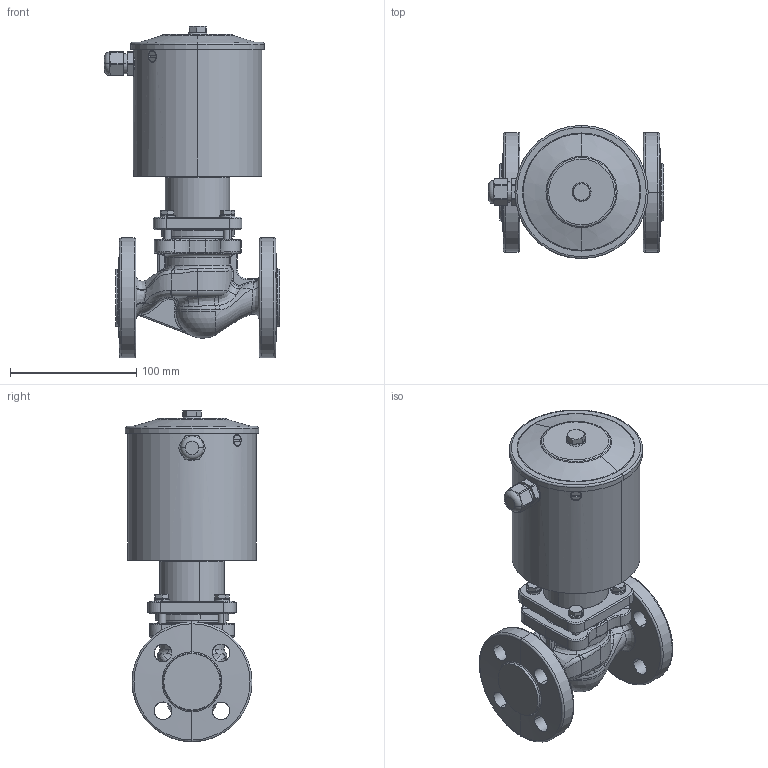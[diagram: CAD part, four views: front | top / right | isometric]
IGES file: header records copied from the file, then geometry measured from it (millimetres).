
Global section: file name: No Iges File Name specified; native system: AutoDesk Inventor R12.0; preprocessor: AutoDesk Inventor Iges Exporter R12.0; date: 20110401.121548; units: millimetre
Bounding box: 138.8 x 105.6 x 262.8 mm (x, y, z)
Volume: 1411349.7 mm3; surface area: 134331.8 mm2
Topology: 1 solids, 1 shells, 539 faces, 1300 edges, 787 vertices
Faces by surface type: bspline 180, plane 131, cylinder 81, cone 64, revolution 53, torus 28, sphere 2
